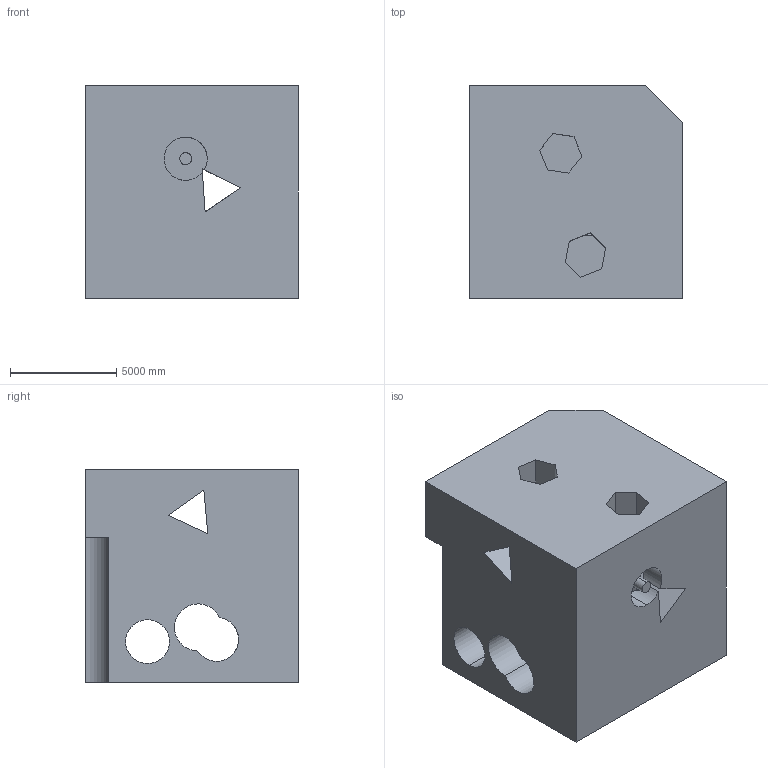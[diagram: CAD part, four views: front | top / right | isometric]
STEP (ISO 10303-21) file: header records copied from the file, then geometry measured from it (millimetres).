
FILE_DESCRIPTION (( 'STEP AP203' ), '1' );
FILE_NAME ('953.STEP', '2022-08-04T16:19:36', ( 'user' ), ( '' ), 'SwSTEP 2.0', 'SolidWorks 2021', '' );
FILE_SCHEMA (( 'CONFIG_CONTROL_DESIGN' ));
Length unit declared in the file: centimetre
Products named in the file (1): 953
Bounding box: 10000 x 10000 x 10000 mm (x, y, z)
Volume: 816263580052.6 mm3; surface area: 902169118.7 mm2
Topology: 1 solids, 1 shells, 56 faces, 168 edges, 112 vertices
Faces by surface type: plane 42, cylinder 14
Entity records: 1979 total; most frequent: CARTESIAN_POINT 409, ORIENTED_EDGE 336, DIRECTION 280, EDGE_CURVE 168, LINE 122, VECTOR 122, VERTEX_POINT 112, AXIS2_PLACEMENT_3D 79
